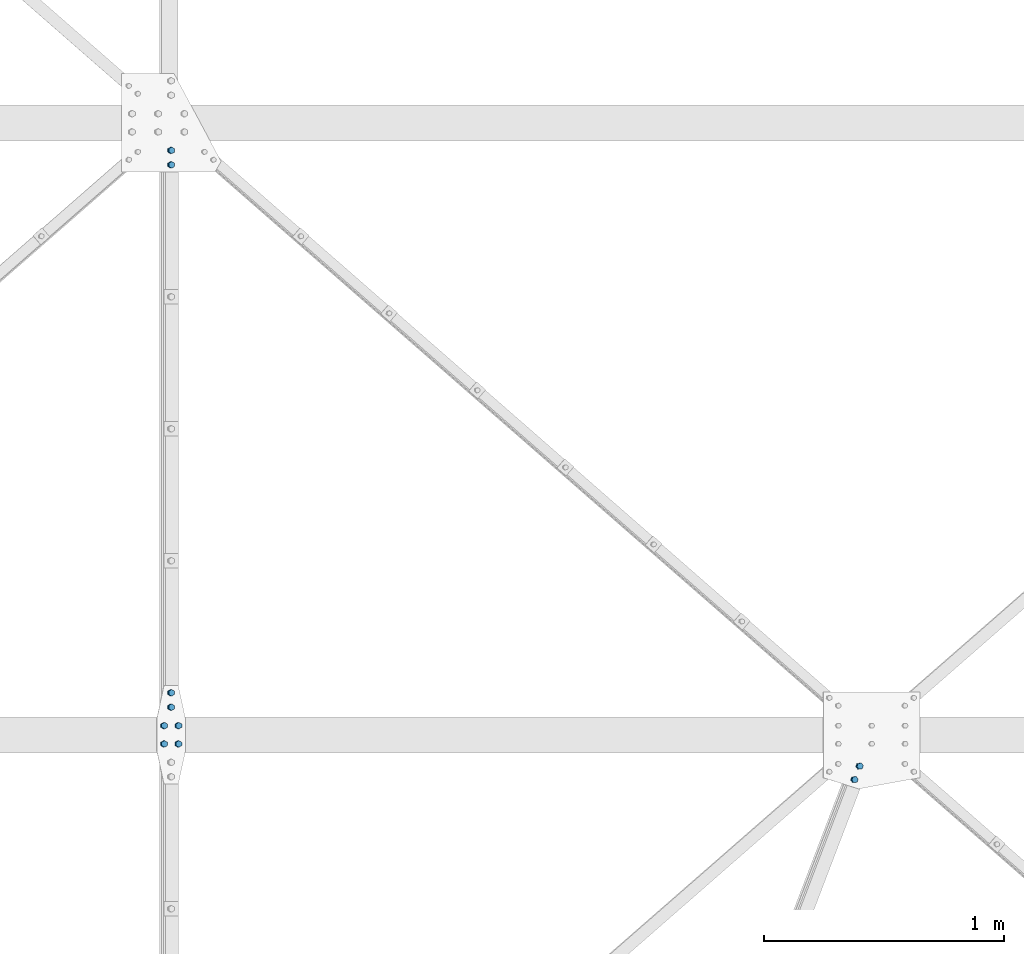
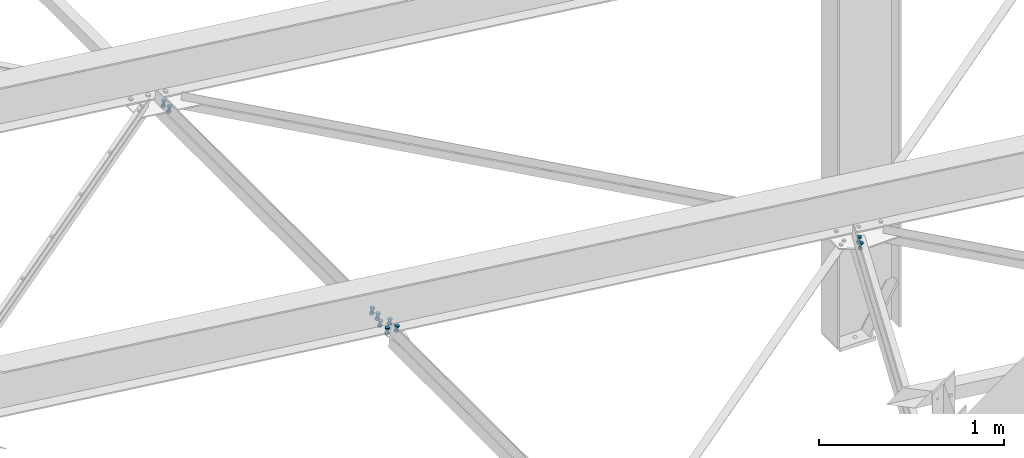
# One storey, part 29 of 3134: 4 mechanical fasteners, 3 elements without a shape of their own.
"""IFC2X3 building model written with IfcOpenShell, lengths in millimetres."""

from ifc_helpers import new_model, si_unit, frame, origin_with_axes, place, context, subcontext, project, spatial, faceted_brep, source, transform, mapped, material, type_object, element, aggregate, save


model = new_model("IFC2X3")

# Units and contexts
model_context = context("Model", 3, precision=1e-05, world=origin_with_axes())
body_context = subcontext(model_context, "Body", "Model", "MODEL_VIEW")
ifc_project = project(units=[si_unit("LENGTHUNIT", "METRE", prefix="MILLI"), si_unit("AREAUNIT", "SQUARE_METRE"), si_unit("VOLUMEUNIT", "CUBIC_METRE"), si_unit("MASSUNIT", "GRAM", prefix="KILO"), si_unit("TIMEUNIT", "SECOND"), si_unit("PLANEANGLEUNIT", "RADIAN"), si_unit("SOLIDANGLEUNIT", "STERADIAN"), si_unit("THERMODYNAMICTEMPERATUREUNIT", "DEGREE_CELSIUS"), si_unit("LUMINOUSINTENSITYUNIT", "LUMEN")], contexts=[model_context])

# Site, building, storey
site_placement = place(None, origin_with_axes())
site = spatial("IfcSite", under=ifc_project, at=site_placement, CompositionType="ELEMENT")
building_placement = place(site_placement, origin_with_axes())
building = spatial("IfcBuilding", under=site, at=building_placement, Name="Undefined", CompositionType="ELEMENT")
storey_placement = place(building_placement, origin_with_axes())
storey = spatial("IfcBuildingStorey", under=building, at=storey_placement, Name="Undefined", CompositionType="ELEMENT", Elevation=0.0)

# Assembly, mechanical fastener
assembly_1_placement = place(storey_placement, origin_with_axes())
assembly_1 = element("IfcElementAssembly", 1, at=assembly_1_placement, inside=storey, AssemblyPlace="NOTDEFINED", PredefinedType="RIGID_FRAME")
ifc_material = material(Name="8.8")
mechanical_fastener_type = type_object("IfcMechanicalFastenerType", Name="Bolt assembly")
shared_shape_1 = source(origin_with_axes(), body_context, "Body", "Brep", [
    faceted_brep([(13.856406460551, -21.0000017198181, 0.0), (6.92820323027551, -21.0000017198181, 12.0), (-6.92820323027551, -21.0000017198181, 12.0), (-13.856406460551, -21.0000017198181, 1.69692038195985e-15), (-6.92820323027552, -21.0000017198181, -12.0), (6.9282032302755, -21.0000017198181, -12.0), (6.9282032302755, -11.0000017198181, -12.0), (-6.92820323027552, -11.0000017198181, -12.0), (-13.856406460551, -11.0000017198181, 1.69692038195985e-15), (-6.92820323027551, -11.0000017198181, 12.0), (6.92820323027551, -11.0000017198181, 12.0), (13.856406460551, -11.0000017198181, 0.0), (8.0, -11.0000017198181, 0.0), (6.92820323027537, -11.0000017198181, 4.00000000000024), (3.99999999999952, -11.0000017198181, 6.92820323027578), (-8.29068785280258e-13, -11.0000017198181, 8.0), (-4.00000000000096, -11.0000017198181, 6.92820323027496), (-6.9282032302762, -11.0000017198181, 3.99999999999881), (-8.0, -11.0000017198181, -1.65813757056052e-12), (-6.92820323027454, -11.0000017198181, -4.00000000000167), (-3.99999999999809, -11.0000017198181, -6.92820323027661), (2.47832457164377e-12, -11.0000017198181, -8.0), (4.00000000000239, -11.0000017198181, -6.92820323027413), (6.92820323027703, -11.0000017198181, -3.99999999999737), (6.92820323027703, 29.0, -3.99999999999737), (4.00000000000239, 29.0, -6.92820323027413), (2.47832457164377e-12, 29.0, -8.0), (-3.99999999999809, 29.0, -6.92820323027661), (-6.92820323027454, 29.0, -4.00000000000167), (-8.0, 29.0, -1.65813757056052e-12), (-6.9282032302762, 29.0, 3.99999999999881), (-4.00000000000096, 29.0, 6.92820323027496), (-8.29068785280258e-13, 29.0, 8.0), (3.99999999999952, 29.0, 6.92820323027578), (6.92820323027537, 29.0, 4.00000000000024), (8.0, 29.0, 0.0), (13.856406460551, 10.9998472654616, 0.0), (6.92820323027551, 10.9998472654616, 12.0), (-6.92820323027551, 10.9998472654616, 12.0), (-13.856406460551, 10.9998472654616, 1.69692038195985e-15), (-6.92820323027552, 10.9998472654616, -12.0), (6.9282032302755, 10.9998472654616, -12.0), (6.9282032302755, 23.9998472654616, -12.0), (-6.92820323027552, 23.9998472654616, -12.0), (-13.856406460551, 23.9998472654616, 1.69692038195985e-15), (-6.92820323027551, 23.9998472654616, 12.0), (6.92820323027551, 23.9998472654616, 12.0), (13.856406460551, 23.9998472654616, 0.0)], [[[0, 1, 2, 3, 4, 5]], [[6, 7, 8, 9, 10, 11]], [[0, 11, 10, 1]], [[1, 10, 9, 2]], [[2, 9, 8, 3]], [[3, 8, 7, 4]], [[4, 7, 6, 5]], [[5, 6, 11, 0]], [[12, 13, 14, 15, 16, 17, 18, 19, 20, 21, 22, 23]], [[24, 25, 26, 27, 28, 29, 30, 31, 32, 33, 34, 35]], [[12, 35, 34, 13]], [[13, 34, 33, 14]], [[14, 33, 32, 15]], [[15, 32, 31, 16]], [[16, 31, 30, 17]], [[17, 30, 29, 18]], [[18, 29, 28, 19]], [[19, 28, 27, 20]], [[20, 27, 26, 21]], [[21, 26, 25, 22]], [[22, 25, 24, 23]], [[23, 24, 35, 12]], [[36, 37, 38, 39, 40, 41]], [[42, 43, 44, 45, 46, 47]], [[36, 47, 46, 37]], [[37, 46, 45, 38]], [[38, 45, 44, 39]], [[39, 44, 43, 40]], [[40, 43, 42, 41]], [[41, 42, 47, 36]]]),
    faceted_brep([(9.0, 3.89984726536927, 0.0), (7.79422863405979, 3.89984726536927, 4.50000000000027), (4.49999999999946, 3.89984726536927, 7.79422863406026), (-9.3270238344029e-13, 3.89984726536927, 9.0), (-4.50000000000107, 3.89984726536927, 7.79422863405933), (-7.79422863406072, 3.89984726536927, 4.49999999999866), (-9.0, 3.89984726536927, -1.86540476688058e-12), (-7.79422863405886, 3.89984726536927, -4.50000000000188), (-4.49999999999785, 3.89984726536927, -7.79422863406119), (2.78811514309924e-12, 3.89984726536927, -9.0), (4.50000000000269, 3.89984726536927, -7.7942286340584), (7.79422863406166, 3.89984726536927, -4.49999999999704), (7.79422863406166, 10.9998472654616, -4.49999999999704), (4.50000000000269, 10.9998472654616, -7.7942286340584), (2.78811514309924e-12, 10.9998472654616, -9.0), (-4.49999999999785, 10.9998472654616, -7.79422863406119), (-7.79422863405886, 10.9998472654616, -4.50000000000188), (-9.0, 10.9998472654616, -1.86540476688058e-12), (-7.79422863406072, 10.9998472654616, 4.49999999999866), (-4.50000000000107, 10.9998472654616, 7.79422863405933), (-9.3270238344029e-13, 10.9998472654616, 9.0), (4.49999999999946, 10.9998472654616, 7.79422863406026), (7.79422863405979, 10.9998472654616, 4.50000000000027), (9.0, 10.9998472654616, 0.0), (9.0, -10.9000017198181, 0.0), (7.79422863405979, -10.9000017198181, 4.50000000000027), (4.49999999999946, -10.9000017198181, 7.79422863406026), (-9.3270238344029e-13, -10.9000017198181, 9.0), (-4.50000000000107, -10.9000017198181, 7.79422863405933), (-7.79422863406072, -10.9000017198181, 4.49999999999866), (-9.0, -10.9000017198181, -1.86540476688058e-12), (-7.79422863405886, -10.9000017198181, -4.50000000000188), (-4.49999999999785, -10.9000017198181, -7.79422863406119), (2.78811514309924e-12, -10.9000017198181, -9.0), (4.50000000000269, -10.9000017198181, -7.7942286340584), (7.79422863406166, -10.9000017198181, -4.49999999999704), (7.79422863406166, -3.9, -4.49999999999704), (4.50000000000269, -3.9, -7.7942286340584), (2.78811514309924e-12, -3.9, -9.0), (-4.49999999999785, -3.9, -7.79422863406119), (-7.79422863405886, -3.9, -4.50000000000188), (-9.0, -3.9, -1.86540476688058e-12), (-7.79422863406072, -3.9, 4.49999999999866), (-4.50000000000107, -3.9, 7.79422863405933), (-9.3270238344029e-13, -3.9, 9.0), (4.49999999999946, -3.9, 7.79422863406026), (7.79422863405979, -3.9, 4.50000000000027), (9.0, -3.9, 0.0), (9.0, -3.99999624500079, 0.0), (7.79422863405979, -3.99999624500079, 4.50000000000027), (4.49999999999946, -3.99999624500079, 7.79422863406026), (-9.3270238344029e-13, -3.99999624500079, 9.0), (-4.50000000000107, -3.99999624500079, 7.79422863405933), (-7.79422863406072, -3.99999624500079, 4.49999999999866), (-9.0, -3.99999624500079, -1.86540476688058e-12), (-7.79422863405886, -3.99999624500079, -4.50000000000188), (-4.49999999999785, -3.99999624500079, -7.79422863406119), (2.78811514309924e-12, -3.99999624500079, -9.0), (4.50000000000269, -3.99999624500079, -7.7942286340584), (7.79422863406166, -3.99999624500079, -4.49999999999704), (7.79422863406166, 4.00000375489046, -4.49999999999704), (4.50000000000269, 4.00000375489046, -7.7942286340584), (2.78811514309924e-12, 4.00000375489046, -9.0), (-4.49999999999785, 4.00000375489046, -7.79422863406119), (-7.79422863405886, 4.00000375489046, -4.50000000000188), (-9.0, 4.00000375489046, -1.86540476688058e-12), (-7.79422863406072, 4.00000375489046, 4.49999999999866), (-4.50000000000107, 4.00000375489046, 7.79422863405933), (-9.3270238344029e-13, 4.00000375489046, 9.0), (4.49999999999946, 4.00000375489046, 7.79422863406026), (7.79422863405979, 4.00000375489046, 4.50000000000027), (9.0, 4.00000375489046, 0.0)], [[[0, 1, 2, 3, 4, 5, 6, 7, 8, 9, 10, 11]], [[12, 13, 14, 15, 16, 17, 18, 19, 20, 21, 22, 23]], [[0, 23, 22, 1]], [[1, 22, 21, 2]], [[2, 21, 20, 3]], [[3, 20, 19, 4]], [[4, 19, 18, 5]], [[5, 18, 17, 6]], [[6, 17, 16, 7]], [[7, 16, 15, 8]], [[8, 15, 14, 9]], [[9, 14, 13, 10]], [[10, 13, 12, 11]], [[11, 12, 23, 0]], [[24, 25, 26, 27, 28, 29, 30, 31, 32, 33, 34, 35]], [[36, 37, 38, 39, 40, 41, 42, 43, 44, 45, 46, 47]], [[24, 47, 46, 25]], [[25, 46, 45, 26]], [[26, 45, 44, 27]], [[27, 44, 43, 28]], [[28, 43, 42, 29]], [[29, 42, 41, 30]], [[30, 41, 40, 31]], [[31, 40, 39, 32]], [[32, 39, 38, 33]], [[33, 38, 37, 34]], [[34, 37, 36, 35]], [[35, 36, 47, 24]], [[48, 49, 50, 51, 52, 53, 54, 55, 56, 57, 58, 59]], [[60, 61, 62, 63, 64, 65, 66, 67, 68, 69, 70, 71]], [[48, 71, 70, 49]], [[49, 70, 69, 50]], [[50, 69, 68, 51]], [[51, 68, 67, 52]], [[52, 67, 66, 53]], [[53, 66, 65, 54]], [[54, 65, 64, 55]], [[55, 64, 63, 56]], [[56, 63, 62, 57]], [[57, 62, 61, 58]], [[58, 61, 60, 59]], [[59, 60, 71, 48]]]),
])
mechanical_fastener_1_placement = place(assembly_1_placement, frame((29556.3761595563, 2419.326179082, 4452.35476304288), z_axis=(0.926495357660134, -0.358887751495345, -0.113163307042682), x_axis=(-0.356240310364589, -0.933380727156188, 0.0435116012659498)))
mechanical_fastener_1 = element("IfcMechanicalFastener", 2, at=mechanical_fastener_1_placement, type_object=mechanical_fastener_type, material=ifc_material, Name="Bolt assembly", NominalDiameter=16.0, NominalLength=40.0, context=body_context, shape_type="MappedRepresentation", body=[
    mapped(shared_shape_1, transform((0.0, 0.0, 0.0))),
    mapped(shared_shape_1, transform((59.9999999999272, 0.0, 5.40239852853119e-10))),
])
aggregate(assembly_1, [mechanical_fastener_1])

# Assembly, mechanical fasteners
assembly_2_placement = place(storey_placement, origin_with_axes())
assembly_2 = element("IfcElementAssembly", 3, at=assembly_2_placement, inside=storey, AssemblyPlace="NOTDEFINED", PredefinedType="RIGID_FRAME")
shared_shape_2 = source(origin_with_axes(), body_context, "Body", "Brep", [
    faceted_brep([(13.856406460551, -16.9990000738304, 0.0), (6.92820323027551, -16.9990000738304, 12.0), (-6.92820323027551, -16.9990000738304, 12.0), (-13.856406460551, -16.9990000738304, 1.69692038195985e-15), (-6.92820323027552, -16.9990000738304, -12.0), (6.9282032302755, -16.9990000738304, -12.0), (6.9282032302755, -6.99900007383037, -12.0), (-6.92820323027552, -6.99900007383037, -12.0), (-13.856406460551, -6.99900007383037, 1.69692038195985e-15), (-6.92820323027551, -6.99900007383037, 12.0), (6.92820323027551, -6.99900007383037, 12.0), (13.856406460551, -6.99900007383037, 0.0), (8.0, -6.99900007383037, 0.0), (6.92820323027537, -6.99900007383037, 4.00000000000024), (3.99999999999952, -6.99900007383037, 6.92820323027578), (-8.29068785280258e-13, -6.99900007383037, 8.0), (-4.00000000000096, -6.99900007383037, 6.92820323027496), (-6.9282032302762, -6.99900007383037, 3.99999999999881), (-8.0, -6.99900007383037, -1.65813757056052e-12), (-6.92820323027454, -6.99900007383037, -4.00000000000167), (-3.99999999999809, -6.99900007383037, -6.92820323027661), (2.47832457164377e-12, -6.99900007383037, -8.0), (4.00000000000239, -6.99900007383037, -6.92820323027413), (6.92820323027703, -6.99900007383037, -3.99999999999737), (6.92820323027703, 33.0009999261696, -3.99999999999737), (4.00000000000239, 33.0009999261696, -6.92820323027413), (2.47832457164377e-12, 33.0009999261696, -8.0), (-3.99999999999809, 33.0009999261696, -6.92820323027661), (-6.92820323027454, 33.0009999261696, -4.00000000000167), (-8.0, 33.0009999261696, -1.65813757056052e-12), (-6.9282032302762, 33.0009999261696, 3.99999999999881), (-4.00000000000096, 33.0009999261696, 6.92820323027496), (-8.29068785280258e-13, 33.0009999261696, 8.0), (3.99999999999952, 33.0009999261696, 6.92820323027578), (6.92820323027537, 33.0009999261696, 4.00000000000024), (8.0, 33.0009999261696, 0.0), (13.856406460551, 14.9990000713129, 0.0), (6.92820323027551, 14.9990000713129, 12.0), (-6.92820323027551, 14.9990000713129, 12.0), (-13.856406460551, 14.9990000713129, 1.69692038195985e-15), (-6.92820323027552, 14.9990000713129, -12.0), (6.9282032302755, 14.9990000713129, -12.0), (6.9282032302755, 27.9990000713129, -12.0), (-6.92820323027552, 27.9990000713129, -12.0), (-13.856406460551, 27.9990000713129, 1.69692038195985e-15), (-6.92820323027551, 27.9990000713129, 12.0), (6.92820323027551, 27.9990000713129, 12.0), (13.856406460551, 27.9990000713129, 0.0)], [[[0, 1, 2, 3, 4, 5]], [[6, 7, 8, 9, 10, 11]], [[0, 11, 10, 1]], [[1, 10, 9, 2]], [[2, 9, 8, 3]], [[3, 8, 7, 4]], [[4, 7, 6, 5]], [[5, 6, 11, 0]], [[12, 13, 14, 15, 16, 17, 18, 19, 20, 21, 22, 23]], [[24, 25, 26, 27, 28, 29, 30, 31, 32, 33, 34, 35]], [[12, 35, 34, 13]], [[13, 34, 33, 14]], [[14, 33, 32, 15]], [[15, 32, 31, 16]], [[16, 31, 30, 17]], [[17, 30, 29, 18]], [[18, 29, 28, 19]], [[19, 28, 27, 20]], [[20, 27, 26, 21]], [[21, 26, 25, 22]], [[22, 25, 24, 23]], [[23, 24, 35, 12]], [[36, 37, 38, 39, 40, 41]], [[42, 43, 44, 45, 46, 47]], [[36, 47, 46, 37]], [[37, 46, 45, 38]], [[38, 45, 44, 39]], [[39, 44, 43, 40]], [[40, 43, 42, 41]], [[41, 42, 47, 36]]]),
    faceted_brep([(9.0, -3.46568413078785e-07, 0.0), (7.79422863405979, -3.46568413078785e-07, 4.50000000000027), (4.49999999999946, -3.46568413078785e-07, 7.79422863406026), (-9.3270238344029e-13, -3.46568413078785e-07, 9.0), (-4.50000000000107, -3.46568413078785e-07, 7.79422863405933), (-7.79422863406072, -3.46568413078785e-07, 4.49999999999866), (-9.0, -3.46568413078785e-07, -1.86540476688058e-12), (-7.79422863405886, -3.46568413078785e-07, -4.50000000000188), (-4.49999999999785, -3.46568413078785e-07, -7.79422863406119), (2.78811514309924e-12, -3.46568413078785e-07, -9.0), (4.50000000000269, -3.46568413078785e-07, -7.7942286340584), (7.79422863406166, -3.46568413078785e-07, -4.49999999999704), (7.79422863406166, 8.00000000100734, -4.49999999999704), (4.50000000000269, 8.00000000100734, -7.7942286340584), (2.78811514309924e-12, 8.00000000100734, -9.0), (-4.49999999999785, 8.00000000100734, -7.79422863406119), (-7.79422863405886, 8.00000000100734, -4.50000000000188), (-9.0, 8.00000000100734, -1.86540476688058e-12), (-7.79422863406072, 8.00000000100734, 4.49999999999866), (-4.50000000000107, 8.00000000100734, 7.79422863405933), (-9.3270238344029e-13, 8.00000000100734, 9.0), (4.49999999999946, 8.00000000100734, 7.79422863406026), (7.79422863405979, 8.00000000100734, 4.50000000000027), (9.0, 8.00000000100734, 0.0), (9.0, -6.89900007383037, 0.0), (7.79422863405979, -6.89900007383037, 4.50000000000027), (4.49999999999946, -6.89900007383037, 7.79422863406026), (-9.3270238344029e-13, -6.89900007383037, 9.0), (-4.50000000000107, -6.89900007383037, 7.79422863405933), (-7.79422863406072, -6.89900007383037, 4.49999999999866), (-9.0, -6.89900007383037, -1.86540476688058e-12), (-7.79422863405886, -6.89900007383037, -4.50000000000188), (-4.49999999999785, -6.89900007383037, -7.79422863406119), (2.78811514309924e-12, -6.89900007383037, -9.0), (4.50000000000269, -6.89900007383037, -7.7942286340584), (7.79422863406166, -6.89900007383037, -4.49999999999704), (7.79422863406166, 0.100999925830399, -4.49999999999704), (4.50000000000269, 0.100999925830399, -7.7942286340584), (2.78811514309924e-12, 0.100999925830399, -9.0), (-4.49999999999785, 0.100999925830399, -7.79422863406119), (-7.79422863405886, 0.100999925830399, -4.50000000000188), (-9.0, 0.100999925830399, -1.86540476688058e-12), (-7.79422863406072, 0.100999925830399, 4.49999999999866), (-4.50000000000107, 0.100999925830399, 7.79422863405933), (-9.3270238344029e-13, 0.100999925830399, 9.0), (4.49999999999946, 0.100999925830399, 7.79422863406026), (7.79422863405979, 0.100999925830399, 4.50000000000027), (9.0, 0.100999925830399, 0.0), (9.0, 7.89900007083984, 0.0), (7.79422863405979, 7.89900007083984, 4.50000000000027), (4.49999999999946, 7.89900007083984, 7.79422863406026), (-9.3270238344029e-13, 7.89900007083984, 9.0), (-4.50000000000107, 7.89900007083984, 7.79422863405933), (-7.79422863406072, 7.89900007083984, 4.49999999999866), (-9.0, 7.89900007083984, -1.86540476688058e-12), (-7.79422863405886, 7.89900007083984, -4.50000000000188), (-4.49999999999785, 7.89900007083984, -7.79422863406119), (2.78811514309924e-12, 7.89900007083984, -9.0), (4.50000000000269, 7.89900007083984, -7.7942286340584), (7.79422863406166, 7.89900007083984, -4.49999999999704), (7.79422863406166, 14.9990000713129, -4.49999999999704), (4.50000000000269, 14.9990000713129, -7.7942286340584), (2.78811514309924e-12, 14.9990000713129, -9.0), (-4.49999999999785, 14.9990000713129, -7.79422863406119), (-7.79422863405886, 14.9990000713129, -4.50000000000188), (-9.0, 14.9990000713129, -1.86540476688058e-12), (-7.79422863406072, 14.9990000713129, 4.49999999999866), (-4.50000000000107, 14.9990000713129, 7.79422863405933), (-9.3270238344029e-13, 14.9990000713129, 9.0), (4.49999999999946, 14.9990000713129, 7.79422863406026), (7.79422863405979, 14.9990000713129, 4.50000000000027), (9.0, 14.9990000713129, 0.0)], [[[0, 1, 2, 3, 4, 5, 6, 7, 8, 9, 10, 11]], [[12, 13, 14, 15, 16, 17, 18, 19, 20, 21, 22, 23]], [[0, 23, 22, 1]], [[1, 22, 21, 2]], [[2, 21, 20, 3]], [[3, 20, 19, 4]], [[4, 19, 18, 5]], [[5, 18, 17, 6]], [[6, 17, 16, 7]], [[7, 16, 15, 8]], [[8, 15, 14, 9]], [[9, 14, 13, 10]], [[10, 13, 12, 11]], [[11, 12, 23, 0]], [[24, 25, 26, 27, 28, 29, 30, 31, 32, 33, 34, 35]], [[36, 37, 38, 39, 40, 41, 42, 43, 44, 45, 46, 47]], [[24, 47, 46, 25]], [[25, 46, 45, 26]], [[26, 45, 44, 27]], [[27, 44, 43, 28]], [[28, 43, 42, 29]], [[29, 42, 41, 30]], [[30, 41, 40, 31]], [[31, 40, 39, 32]], [[32, 39, 38, 33]], [[33, 38, 37, 34]], [[34, 37, 36, 35]], [[35, 36, 47, 24]], [[48, 49, 50, 51, 52, 53, 54, 55, 56, 57, 58, 59]], [[60, 61, 62, 63, 64, 65, 66, 67, 68, 69, 70, 71]], [[48, 71, 70, 49]], [[49, 70, 69, 50]], [[50, 69, 68, 51]], [[51, 68, 67, 52]], [[52, 67, 66, 53]], [[53, 66, 65, 54]], [[54, 65, 64, 55]], [[55, 64, 63, 56]], [[56, 63, 62, 57]], [[57, 62, 61, 58]], [[58, 61, 60, 59]], [[59, 60, 71, 48]]]),
])
mechanical_fastener_2_placement = place(assembly_2_placement, frame((26687.9849612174, 4925.0, 4806.73358921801), z_axis=(-0.992623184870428, 0.0, 0.121240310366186), x_axis=(0.0, 1.0, 0.0)))
mechanical_fastener_2 = element("IfcMechanicalFastener", 4, at=mechanical_fastener_2_placement, type_object=mechanical_fastener_type, material=ifc_material, Name="Bolt assembly", NominalDiameter=16.0, NominalLength=40.0, context=body_context, shape_type="MappedRepresentation", body=[
    mapped(shared_shape_2, transform((0.0, 0.0, 0.0))),
    mapped(shared_shape_2, transform((59.9999999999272, 0.0, 5.40239852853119e-10))),
])
mechanical_fastener_3_placement = place(assembly_2_placement, frame((26687.9849612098, 2665.0, 4806.73358921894), z_axis=(-0.992623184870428, 0.0, 0.121240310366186), x_axis=(0.0, 1.0, 0.0)))
mechanical_fastener_3 = element("IfcMechanicalFastener", 5, at=mechanical_fastener_3_placement, type_object=mechanical_fastener_type, material=ifc_material, Name="Bolt assembly", NominalDiameter=16.0, NominalLength=40.0, context=body_context, shape_type="MappedRepresentation", body=[
    mapped(shared_shape_2, transform((0.0, 0.0, 0.0))),
    mapped(shared_shape_2, transform((59.9999999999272, 0.0, 5.40239852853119e-10))),
])
aggregate(assembly_2, [mechanical_fastener_2, mechanical_fastener_3])

# Assembly, mechanical fastener
assembly_3_placement = place(storey_placement, origin_with_axes())
assembly_3 = element("IfcElementAssembly", 6, at=assembly_3_placement, inside=storey, Name="PL8", AssemblyPlace="NOTDEFINED", PredefinedType="RIGID_FRAME")
shared_shape_3 = source(origin_with_axes(), body_context, "Body", "Brep", [
    faceted_brep([(13.856406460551, -19.2001597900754, 0.0), (6.92820323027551, -19.2001597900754, 12.0), (-6.92820323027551, -19.2001597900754, 12.0), (-13.856406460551, -19.2001597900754, 1.69692038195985e-15), (-6.92820323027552, -19.2001597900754, -12.0), (6.9282032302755, -19.2001597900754, -12.0), (6.9282032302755, -9.20015979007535, -12.0), (-6.92820323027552, -9.20015979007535, -12.0), (-13.856406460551, -9.20015979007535, 1.69692038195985e-15), (-6.92820323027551, -9.20015979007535, 12.0), (6.92820323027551, -9.20015979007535, 12.0), (13.856406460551, -9.20015979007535, 0.0), (8.0, -9.20015979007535, 0.0), (6.92820323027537, -9.20015979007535, 4.00000000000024), (3.99999999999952, -9.20015979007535, 6.92820323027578), (-8.29068785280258e-13, -9.20015979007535, 8.0), (-4.00000000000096, -9.20015979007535, 6.92820323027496), (-6.9282032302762, -9.20015979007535, 3.99999999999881), (-8.0, -9.20015979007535, -1.65813757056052e-12), (-6.92820323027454, -9.20015979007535, -4.00000000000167), (-3.99999999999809, -9.20015979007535, -6.92820323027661), (2.47832457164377e-12, -9.20015979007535, -8.0), (4.00000000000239, -9.20015979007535, -6.92820323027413), (6.92820323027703, -9.20015979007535, -3.99999999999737), (6.92820323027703, 25.7998402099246, -3.99999999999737), (4.00000000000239, 25.7998402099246, -6.92820323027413), (2.47832457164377e-12, 25.7998402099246, -8.0), (-3.99999999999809, 25.7998402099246, -6.92820323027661), (-6.92820323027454, 25.7998402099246, -4.00000000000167), (-8.0, 25.7998402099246, -1.65813757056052e-12), (-6.9282032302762, 25.7998402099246, 3.99999999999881), (-4.00000000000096, 25.7998402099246, 6.92820323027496), (-8.29068785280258e-13, 25.7998402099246, 8.0), (3.99999999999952, 25.7998402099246, 6.92820323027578), (6.92820323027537, 25.7998402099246, 4.00000000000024), (8.0, 25.7998402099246, 0.0), (13.856406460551, 7.9998399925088, 0.0), (6.92820323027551, 7.9998399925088, 12.0), (-6.92820323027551, 7.9998399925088, 12.0), (-13.856406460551, 7.9998399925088, 1.69692038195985e-15), (-6.92820323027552, 7.9998399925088, -12.0), (6.9282032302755, 7.9998399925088, -12.0), (6.9282032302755, 20.9998399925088, -12.0), (-6.92820323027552, 20.9998399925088, -12.0), (-13.856406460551, 20.9998399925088, 1.69692038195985e-15), (-6.92820323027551, 20.9998399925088, 12.0), (6.92820323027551, 20.9998399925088, 12.0), (13.856406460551, 20.9998399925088, 0.0)], [[[0, 1, 2, 3, 4, 5]], [[6, 7, 8, 9, 10, 11]], [[0, 11, 10, 1]], [[1, 10, 9, 2]], [[2, 9, 8, 3]], [[3, 8, 7, 4]], [[4, 7, 6, 5]], [[5, 6, 11, 0]], [[12, 13, 14, 15, 16, 17, 18, 19, 20, 21, 22, 23]], [[24, 25, 26, 27, 28, 29, 30, 31, 32, 33, 34, 35]], [[12, 35, 34, 13]], [[13, 34, 33, 14]], [[14, 33, 32, 15]], [[15, 32, 31, 16]], [[16, 31, 30, 17]], [[17, 30, 29, 18]], [[18, 29, 28, 19]], [[19, 28, 27, 20]], [[20, 27, 26, 21]], [[21, 26, 25, 22]], [[22, 25, 24, 23]], [[23, 24, 35, 12]], [[36, 37, 38, 39, 40, 41]], [[42, 43, 44, 45, 46, 47]], [[36, 47, 46, 37]], [[37, 46, 45, 38]], [[38, 45, 44, 39]], [[39, 44, 43, 40]], [[40, 43, 42, 41]], [[41, 42, 47, 36]]]),
    faceted_brep([(9.0, -9.10015979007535, 0.0), (7.79422863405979, -9.10015979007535, 4.50000000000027), (4.49999999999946, -9.10015979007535, 7.79422863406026), (-9.3270238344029e-13, -9.10015979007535, 9.0), (-4.50000000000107, -9.10015979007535, 7.79422863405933), (-7.79422863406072, -9.10015979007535, 4.49999999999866), (-9.0, -9.10015979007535, -1.86540476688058e-12), (-7.79422863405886, -9.10015979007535, -4.50000000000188), (-4.49999999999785, -9.10015979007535, -7.79422863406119), (2.78811514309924e-12, -9.10015979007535, -9.0), (4.50000000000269, -9.10015979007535, -7.7942286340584), (7.79422863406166, -9.10015979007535, -4.49999999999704), (7.79422863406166, 0.0998400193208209, -4.49999999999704), (4.50000000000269, 0.0998400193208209, -7.7942286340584), (2.78811514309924e-12, 0.0998400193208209, -9.0), (-4.49999999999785, 0.0998400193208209, -7.79422863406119), (-7.79422863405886, 0.0998400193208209, -4.50000000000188), (-9.0, 0.0998400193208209, -1.86540476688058e-12), (-7.79422863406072, 0.0998400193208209, 4.49999999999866), (-4.50000000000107, 0.0998400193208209, 7.79422863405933), (-9.3270238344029e-13, 0.0998400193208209, 9.0), (4.49999999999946, 0.0998400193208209, 7.79422863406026), (7.79422863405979, 0.0998400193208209, 4.50000000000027), (9.0, 0.0998400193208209, 0.0), (9.0, -0.100160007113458, 0.0), (7.79422863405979, -0.100160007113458, 4.50000000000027), (4.49999999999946, -0.100160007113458, 7.79422863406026), (-9.3270238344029e-13, -0.100160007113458, 9.0), (-4.50000000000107, -0.100160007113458, 7.79422863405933), (-7.79422863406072, -0.100160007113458, 4.49999999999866), (-9.0, -0.100160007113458, -1.86540476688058e-12), (-7.79422863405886, -0.100160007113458, -4.50000000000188), (-4.49999999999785, -0.100160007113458, -7.79422863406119), (2.78811514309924e-12, -0.100160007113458, -9.0), (4.50000000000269, -0.100160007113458, -7.7942286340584), (7.79422863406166, -0.100160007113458, -4.49999999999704), (7.79422863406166, 7.9998399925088, -4.49999999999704), (4.50000000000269, 7.9998399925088, -7.7942286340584), (2.78811514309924e-12, 7.9998399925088, -9.0), (-4.49999999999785, 7.9998399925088, -7.79422863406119), (-7.79422863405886, 7.9998399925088, -4.50000000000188), (-9.0, 7.9998399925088, -1.86540476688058e-12), (-7.79422863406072, 7.9998399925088, 4.49999999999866), (-4.50000000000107, 7.9998399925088, 7.79422863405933), (-9.3270238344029e-13, 7.9998399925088, 9.0), (4.49999999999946, 7.9998399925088, 7.79422863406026), (7.79422863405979, 7.9998399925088, 4.50000000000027), (9.0, 7.9998399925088, 0.0)], [[[0, 1, 2, 3, 4, 5, 6, 7, 8, 9, 10, 11]], [[12, 13, 14, 15, 16, 17, 18, 19, 20, 21, 22, 23]], [[0, 23, 22, 1]], [[1, 22, 21, 2]], [[2, 21, 20, 3]], [[3, 20, 19, 4]], [[4, 19, 18, 5]], [[5, 18, 17, 6]], [[6, 17, 16, 7]], [[7, 16, 15, 8]], [[8, 15, 14, 9]], [[9, 14, 13, 10]], [[10, 13, 12, 11]], [[11, 12, 23, 0]], [[24, 25, 26, 27, 28, 29, 30, 31, 32, 33, 34, 35]], [[36, 37, 38, 39, 40, 41, 42, 43, 44, 45, 46, 47]], [[24, 47, 46, 25]], [[25, 46, 45, 26]], [[26, 45, 44, 27]], [[27, 44, 43, 28]], [[28, 43, 42, 29]], [[29, 42, 41, 30]], [[30, 41, 40, 31]], [[31, 40, 39, 32]], [[32, 39, 38, 33]], [[33, 38, 37, 34]], [[34, 37, 36, 35]], [[35, 36, 47, 24]]]),
])
mechanical_fastener_4_placement = place(assembly_3_placement, frame((26687.984961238, 2512.0, 4806.73358921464), z_axis=(-0.992622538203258, 0.0, 0.121245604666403), x_axis=(0.0, 1.0, 0.0)))
mechanical_fastener_4 = element("IfcMechanicalFastener", 7, at=mechanical_fastener_4_placement, type_object=mechanical_fastener_type, material=ifc_material, Name="Bolt assembly", NominalDiameter=16.0, NominalLength=35.0, context=body_context, shape_type="MappedRepresentation", body=[
    mapped(shared_shape_3, transform((0.0, 4.54747350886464e-13, -30.0000000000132))),
    mapped(shared_shape_3, transform((76.0, -2.00088834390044e-10, -29.9999999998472))),
    mapped(shared_shape_3, transform((0.0, 4.54747350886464e-13, 30.0000000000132))),
    mapped(shared_shape_3, transform((76.0, 1.98269844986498e-10, 29.9999999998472))),
])
aggregate(assembly_3, [mechanical_fastener_4])

save(model, "model.ifc")
